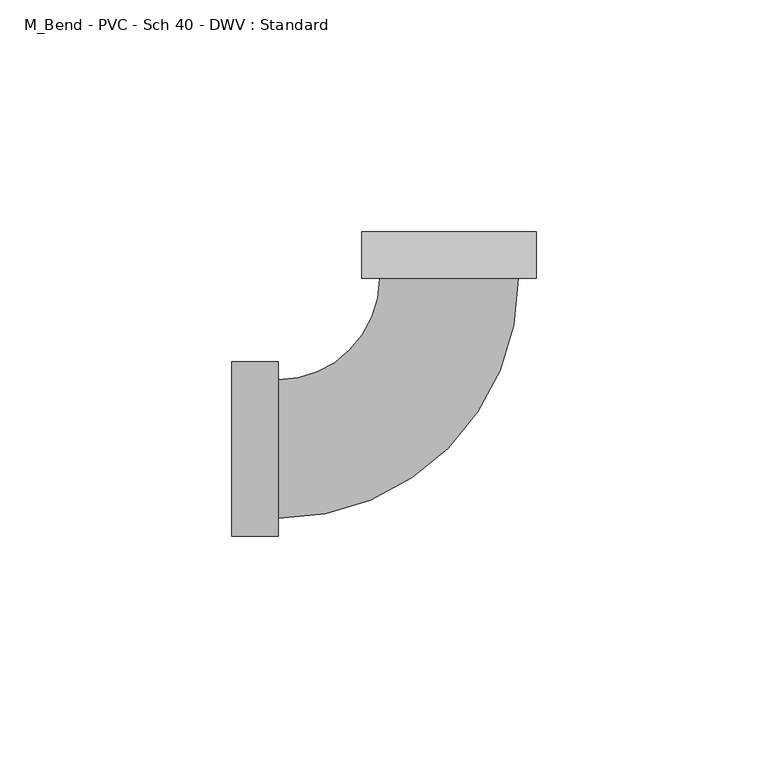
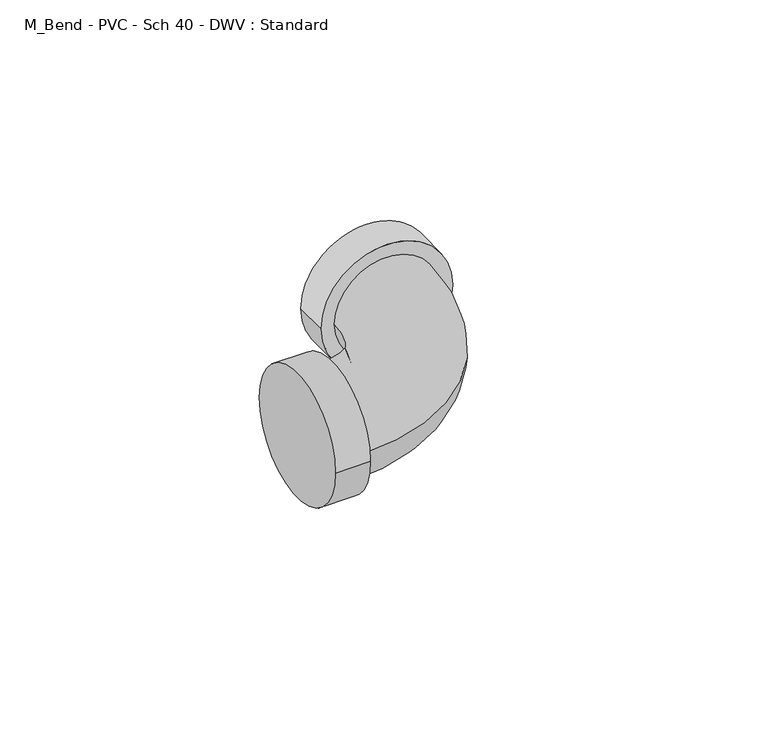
"""IFC4 building model written with IfcOpenShell, lengths in millimetres: pipe fitting geometry, M_Bend - PVC - Sch 40 - DWV : Standard."""

from ifc_helpers import new_model, si_unit, point, frame, origin, place, context, project, spatial, circle_curve, ellipse_curve, trimmed, source, transform, mapped, element, save
from ifc_brep_helpers import plane_surface, cylinder_surface, revolved_surface, advanced_brep


def m_bend_pvc_sch_40_dwv_standard_81456afd(model_context):
    return source(origin(), model_context, "Body", "AdvancedBrep", [
        advanced_brep(
        [(-46.8140625, -18.7871094, 0.0), (-46.8140625, 18.7871094, 0.0), (-36.8140625, -18.7871094, 0.0), (-36.8140625, 18.7871094, 0.0), (-36.8140625, -14.9640625, 0.0), (-36.8140625, 14.9640625, 0.0), (-14.9652302, 36.8135878, 0.0), (14.9628948, 36.8145371, 0.0), (18.7859417, 36.8146584, 0.0), (-18.7882771, 36.8134666, 0.0), (18.7856245, 46.8146584, 0.0), (-18.7885942, 46.8134666, 0.0)],
        [
            (0, 1, circle_curve(frame((-46.8140625, 0.0, 0.0), z_axis=(-1.0, 0.0, 0.0), x_axis=(0.0, 1.0, 0.0)), 18.7871094)),
            (1, 0, circle_curve(frame((-46.8140625, 0.0, 0.0), z_axis=(-1.0, 0.0, 0.0), x_axis=(0.0, 1.0, 0.0)), 18.7871094)),
            (2, 3, circle_curve(frame((-36.8140625, 0.0, 0.0), z_axis=(1.0, 0.0, 0.0), x_axis=(0.0, 1.0, 0.0)), 18.7871094)),
            (3, 2, circle_curve(frame((-36.8140625, 0.0, 0.0), z_axis=(1.0, 0.0, 0.0), x_axis=(0.0, 1.0, 0.0)), 18.7871094)),
            (4, 5, circle_curve(frame((-36.8140625, 0.0, 0.0), z_axis=(-1.0, 0.0, 0.0), x_axis=(0.0, 1.0, 0.0)), 14.9640625)),
            (5, 4, circle_curve(frame((-36.8140625, 0.0, 0.0), z_axis=(-1.0, 0.0, 0.0), x_axis=(0.0, 1.0, 0.0)), 14.9640625)),
            (0, 2),
            (3, 1),
            (6, 5, circle_curve(frame((-36.8140625, 36.8128948, 0.0), z_axis=(0.0, 0.0, -1.0), x_axis=(0.0, -1.0, 0.0)), 21.8488323)),
            (4, 7, circle_curve(frame((-36.8140625, 36.8128948, 0.0), z_axis=(0.0, 0.0, 1.0), x_axis=(0.0, -1.0, 0.0)), 51.7769573)),
            (7, 6, circle_curve(frame((-0.0011677, 36.8140625, 0.0), z_axis=(3.1718752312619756e-05, -0.9999999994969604, 0.0), x_axis=(-0.9999999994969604, -3.1718752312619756e-05, 0.0)), 14.9640625)),
            (6, 7, circle_curve(frame((-0.0011677, 36.8140625, 0.0), z_axis=(3.1718752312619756e-05, -0.9999999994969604, 0.0), x_axis=(-0.9999999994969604, -3.1718752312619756e-05, 0.0)), 14.9640625)),
            (8, 9, circle_curve(frame((-0.0011677, 36.8140625, 0.0), z_axis=(3.171875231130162e-05, -0.9999999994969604, 0.0), x_axis=(-0.9999999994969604, -3.171875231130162e-05, 0.0)), 18.7871094)),
            (9, 8, circle_curve(frame((-0.0011677, 36.8140625, 0.0), z_axis=(3.171875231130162e-05, -0.9999999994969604, 0.0), x_axis=(-0.9999999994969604, -3.171875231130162e-05, 0.0)), 18.7871094)),
            (10, 11, circle_curve(frame((-0.0014849, 46.8140625, 0.0), z_axis=(-3.171875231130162e-05, 0.9999999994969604, 0.0), x_axis=(-0.9999999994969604, -3.171875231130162e-05, 0.0)), 18.7871094)),
            (11, 10, circle_curve(frame((-0.0014849, 46.8140625, 0.0), z_axis=(-3.171875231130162e-05, 0.9999999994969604, 0.0), x_axis=(-0.9999999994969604, -3.171875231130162e-05, 0.0)), 18.7871094)),
            (8, 10),
            (11, 9),
        ],
        [
            plane_surface(frame((-46.8140625, 0.0, 0.0), z_axis=(-1.0, 0.0, 0.0), x_axis=(0.0, 0.0, 1.0))),
            plane_surface(frame((-36.8140625, 0.0, 0.0), z_axis=(1.0, 0.0, 0.0), x_axis=(0.0, 0.0, 1.0))),
            cylinder_surface(frame((-46.8140625, 0.0, 0.0), z_axis=(-1.0, 0.0, 0.0), x_axis=(0.0, 1.0, 0.0)), 18.7871094),
            revolved_surface(trimmed(ellipse_curve(frame((-36.8140625, 0.0, 0.0), z_axis=(-1.0, 0.0, 0.0), x_axis=(0.0, 1.0, 0.0)), 14.9640625, 14.9640625), [point((-36.8140625, -14.9640625, 0.0))], [point((-36.8140625, 14.9640625, 0.0))], True, "CARTESIAN"), (-36.8140625, 36.8128948, 0.0), (0.0, 0.0, 1.0)),
            revolved_surface(trimmed(ellipse_curve(frame((-36.8140625, 0.0, 0.0), z_axis=(-1.0, 0.0, 0.0), x_axis=(0.0, 1.0, 0.0)), 14.9640625, 14.9640625), [point((-36.8140625, 14.9640625, 0.0))], [point((-36.8140625, -14.9640625, 0.0))], True, "CARTESIAN"), (-36.8140625, 36.8128948, 0.0), (0.0, 0.0, 1.0)),
            plane_surface(frame((-0.0011677, 36.8140625, 0.0), z_axis=(3.171875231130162e-05, -0.9999999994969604, 0.0), x_axis=(0.0, 0.0, 1.0))),
            plane_surface(frame((-0.0014849, 46.8140625, 0.0), z_axis=(-3.171875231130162e-05, 0.9999999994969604, 0.0), x_axis=(0.0, 0.0, 1.0))),
            cylinder_surface(frame((-0.0011677, 36.8140625, 0.0), z_axis=(3.171875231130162e-05, -0.9999999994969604, 0.0), x_axis=(-0.9999999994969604, -3.171875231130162e-05, 0.0)), 18.7871094),
        ],
        [
            (0, [[1, 2]]),
            (1, [[3, 4], [5, 6]]),
            (2, [[-1, 7, -4, 8]]),
            (2, [[-2, -8, -3, -7]]),
            (3, [[9, -5, 10, 11]]),
            (4, [[-9, 12, -10, -6]]),
            (5, [[13, 14], [-11, -12]]),
            (6, [[15, 16]]),
            (7, [[-13, 17, -16, 18]]),
            (7, [[-14, -18, -15, -17]]),
        ],
    ),
    ])


if __name__ == "__main__":
    model = new_model("IFC4")
    model_context = context("Model", 3, world=origin())
    ifc_project = project(units=[si_unit("LENGTHUNIT", "METRE", prefix="MILLI")], contexts=[model_context])
    site = spatial("IfcSite", under=ifc_project)
    building = spatial("IfcBuilding", under=site)
    placement = place(None, origin())
    m_bend_pvc_sch_40_dwv_standard_shape = m_bend_pvc_sch_40_dwv_standard_81456afd(model_context)
    element("IfcPipeFitting", 1, ObjectType="M_Bend - PVC - Sch 40 - DWV : Standard", at=placement, inside=building, context=model_context, shape_type="MappedRepresentation", body=[
        mapped(m_bend_pvc_sch_40_dwv_standard_shape, transform((0.0, 0.0, 0.0), x_axis=(1.0, 0.0, 0.0), y_axis=(0.0, 1.0, 0.0), z_axis=(0.0, 0.0, 1.0))),
    ])
    save(model, "model.ifc")
